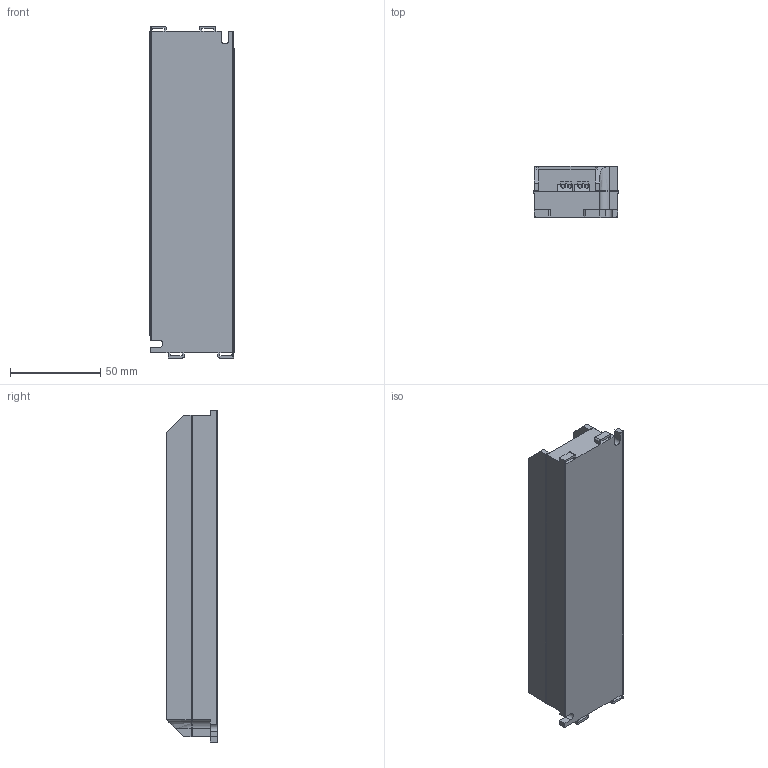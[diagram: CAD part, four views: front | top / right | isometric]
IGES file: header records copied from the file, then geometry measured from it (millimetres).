
Start section:  PTC IGES file: ll1x40-e-da.igs
Global section: file name: ll1x40-e-da.igs; native system: Pro/ENGINEER by Parametric Technology Corporation; preprocessor: 2003010; author: RUUSKA_TAPIO; organization: Unknown; date: 140305.095536; units: millimetre
Bounding box: 46.5 x 28 x 183.6 mm (x, y, z)
Volume: 209568.6 mm3; surface area: 34197.8 mm2
Topology: 1 solids, 1 shells, 256 faces, 718 edges, 476 vertices
Faces by surface type: bspline 204, revolution 52
